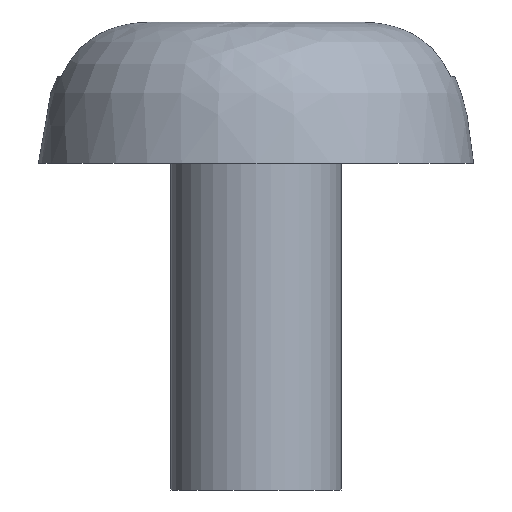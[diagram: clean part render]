
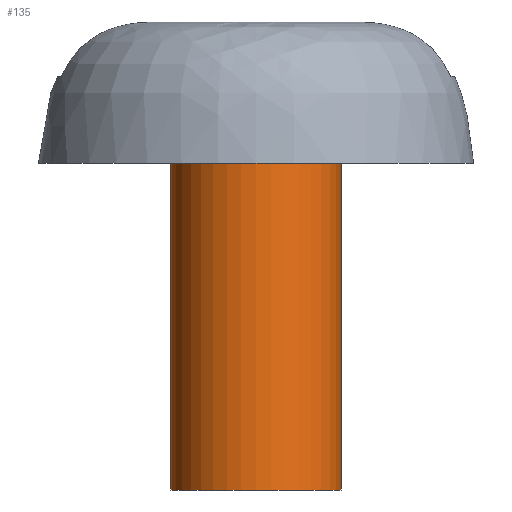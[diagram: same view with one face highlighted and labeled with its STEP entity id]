
A CAD part, front view. The second image highlights one B-rep face of the part: STEP entity #135.
In plain terms, the highlighted cylindrical face has radius 0.783 mm (diameter 1.567 mm), a full revolution.
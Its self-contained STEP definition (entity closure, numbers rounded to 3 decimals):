
#15=LINE('',#401,#20);
#20=VECTOR('',#192,0.783);
#25=CYLINDRICAL_SURFACE('',#164,0.783);
#35=FACE_OUTER_BOUND('',#45,.T.);
#45=EDGE_LOOP('',(#104,#105,#106,#107));
#53=CIRCLE('',#158,0.783);
#59=CIRCLE('',#165,0.783);
#61=VERTEX_POINT('',#215);
#71=VERTEX_POINT('',#400);
#73=EDGE_CURVE('',#61,#61,#53,.T.);
#84=EDGE_CURVE('',#61,#71,#15,.T.);
#85=EDGE_CURVE('',#71,#71,#59,.T.);
#104=ORIENTED_EDGE('',*,*,#73,.F.);
#105=ORIENTED_EDGE('',*,*,#84,.T.);
#106=ORIENTED_EDGE('',*,*,#85,.T.);
#107=ORIENTED_EDGE('',*,*,#84,.F.);
#135=ADVANCED_FACE('',(#35),#25,.T.);
#158=AXIS2_PLACEMENT_3D('',#216,#178,#179);
#164=AXIS2_PLACEMENT_3D('',#399,#190,#191);
#165=AXIS2_PLACEMENT_3D('',#402,#193,#194);
#178=DIRECTION('center_axis',(0.,0.,1.));
#179=DIRECTION('ref_axis',(1.,0.,0.));
#190=DIRECTION('center_axis',(0.,0.,1.));
#191=DIRECTION('ref_axis',(1.,0.,0.));
#192=DIRECTION('',(0.,0.,-1.));
#193=DIRECTION('center_axis',(0.,0.,1.));
#194=DIRECTION('ref_axis',(1.,0.,0.));
#215=CARTESIAN_POINT('',(13.217,-32.,-19.13));
#216=CARTESIAN_POINT('Origin',(14.,-32.,-19.13));
#399=CARTESIAN_POINT('Origin',(14.,-32.,-22.13));
#400=CARTESIAN_POINT('',(13.217,-32.,-22.13));
#401=CARTESIAN_POINT('',(13.217,-32.,-22.13));
#402=CARTESIAN_POINT('Origin',(14.,-32.,-22.13));
